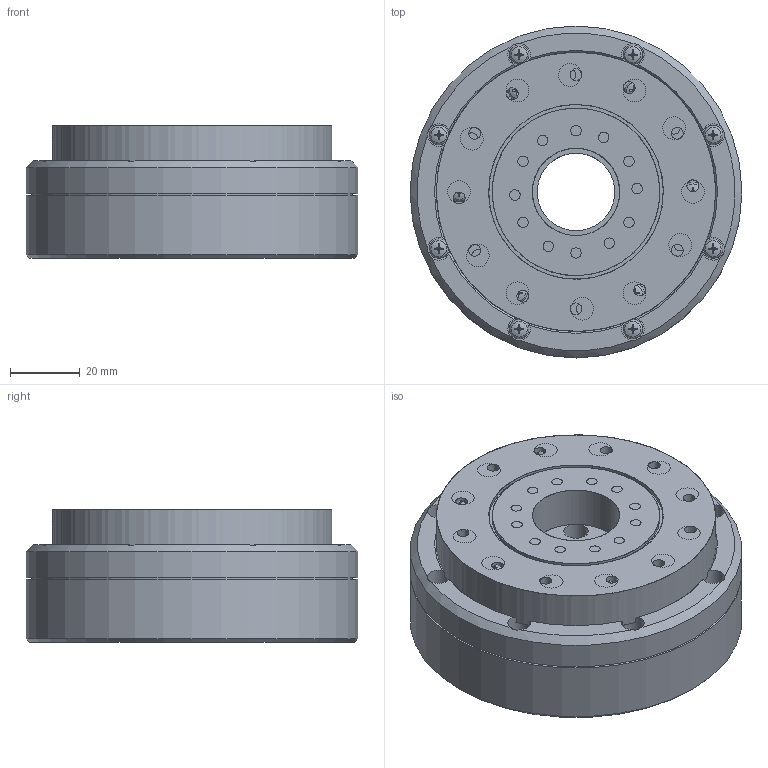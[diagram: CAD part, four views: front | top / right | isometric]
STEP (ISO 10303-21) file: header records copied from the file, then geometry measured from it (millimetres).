
FILE_DESCRIPTION(/* description */ (''),/* implementation_level */ '2;1');
FILE_NAME(/* name */ 'Cycloidal-Drive-2512.step',/* time_stamp */ '2026-07-12T20:55:29-07:00',/* author */ (''),/* organization */ (''),/* preprocessor_version */ 'ST-DEVELOPER v20.1',/* originating_system */ 'Autodesk Translation Framework v15.8.0.0',/* authorisation */ '');
FILE_SCHEMA (('AUTOMOTIVE_DESIGN { 1 0 10303 214 3 1 1 }'));
Length unit declared in the file: millimetre
Products named in the file (12): 2026-07-12-13-41-38-909; 2026-03-10-10-50-26-064; 2026-03-16-09-26-07-099; 2026-07-09-10-35-24-589; 2026-07-09-10-35-34-384; 2026-03-10-16-25-16-387; 2026-05-21-13-35-56-432; TOEI - M3 X 3.43 Stainless Steel Plain; ISO 7045 - M3 x 10 - H Steel 4.6 Plain; ISO 7046-2 - M3x10 - H Steel 4.6 Plain; ISO 7045 - M3 x 12 - H Steel 4.6 Plain; ISO 7045 - M3 x 8 - H Steel 4.6 Plain
Assembly tree (63 placements, depth 4):
  2026-07-12-13-41-38-909
    2026-03-10-10-50-26-064
      2026-03-16-09-26-07-099  x2
        2026-07-09-10-35-24-589
        2026-07-09-10-35-34-384
      2026-03-10-16-25-16-387
        2026-05-21-13-35-56-432
        TOEI - M3 X 3.43 Stainless Steel Plain  x30
        ISO 7045 - M3 x 10 - H Steel 4.6 Plain  x8
        ISO 7046-2 - M3x10 - H Steel 4.6 Plain  x8
      ISO 7045 - M3 x 12 - H Steel 4.6 Plain  x6
      ISO 7045 - M3 x 8 - H Steel 4.6 Plain  x4
Bounding box: 95 x 95 x 38 mm (x, y, z)
Volume: 250498.7 mm3; surface area: 82667 mm2
Topology: 61 solids, 139 shells, 1634 faces, 3140 edges, 1976 vertices
Faces by surface type: plane 735, cylinder 493, cone 356, torus 36, sphere 14
Full cylindrical faces by diameter (mm): 2.529 x30, 2.729 x14, 2.75 x8, 2.927 x22, 3 x12, 3.4 x24, 3.5 x20, 3.99 x60, 4.37 x60, 4.5 x14, 5 x30, 5.2 x30, 5.5 x8, 6.5 x20, 7 x4, 22.2 x1, 25 x2, 48 x6, 50 x6, 58.5 x1, 80 x2, 91.8 x1, 92.2 x1, 95 x2
Entity records: 15017 total; most frequent: DIRECTION 2834, CARTESIAN_POINT 2680, ORIENTED_EDGE 1974, AXIS2_PLACEMENT_3D 1239, EDGE_CURVE 987, EDGE_LOOP 696, VERTEX_POINT 623, FACE_OUTER_BOUND 589
